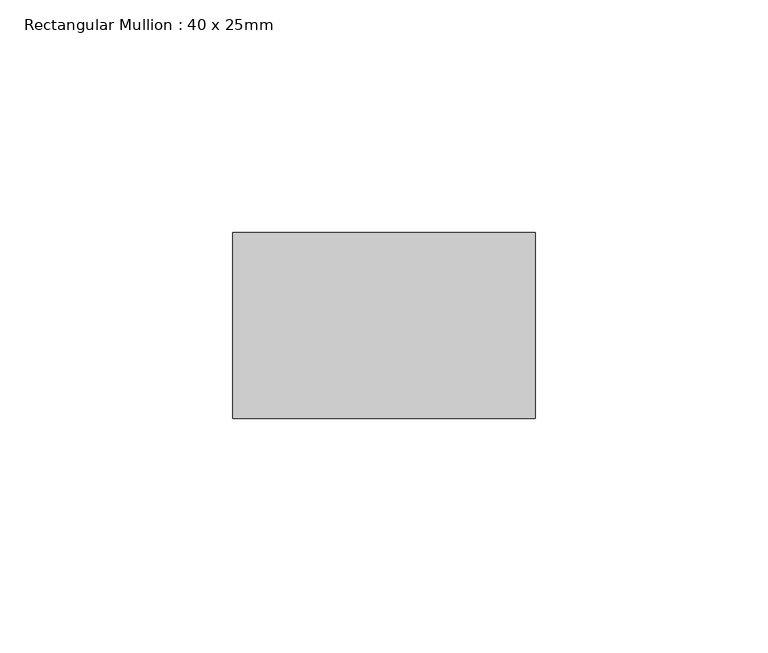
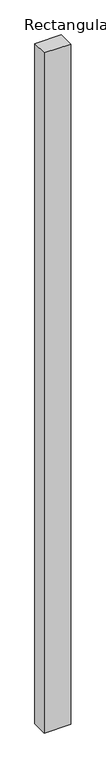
"""IFC4 building model written with IfcOpenShell, lengths in millimetres: member geometry, Rectangular Mullion : 40 x 25mm."""

from ifc_helpers import new_model, si_unit, frame, origin, place, context, project, spatial, polyline, outline, extrude, source, transform, mapped, element, save


def rectangular_mullion_40_x_25mm_14907518(model_context):
    return source(origin(), model_context, "Body", "SweptSolid", [
        extrude(outline(polyline([(0.0, -20.0), (0.0, -60.0), (-65.0, -60.0), (-65.0, -20.0), (0.0, -20.0)])), frame((0.0, 0.0, -1769.9), z_axis=(0.0, 0.0, 1.0), x_axis=(1.0, 0.0, 0.0)), (0.0, 0.0, 1.0), 1769.9),
    ])


if __name__ == "__main__":
    model = new_model("IFC4")
    model_context = context("Model", 3, world=origin())
    ifc_project = project(units=[si_unit("LENGTHUNIT", "METRE", prefix="MILLI")], contexts=[model_context])
    site = spatial("IfcSite", under=ifc_project)
    building = spatial("IfcBuilding", under=site)
    placement = place(None, origin())
    rectangular_mullion_40_x_25mm_shape = rectangular_mullion_40_x_25mm_14907518(model_context)
    element("IfcMember", 1, ObjectType="Rectangular Mullion : 40 x 25mm", at=placement, inside=building, context=model_context, shape_type="MappedRepresentation", body=[
        mapped(rectangular_mullion_40_x_25mm_shape, transform((0.0, 0.0, 0.0), x_axis=(1.0, 0.0, 0.0), y_axis=(0.0, 1.0, 0.0), z_axis=(0.0, 0.0, 1.0))),
    ])
    save(model, "model.ifc")
